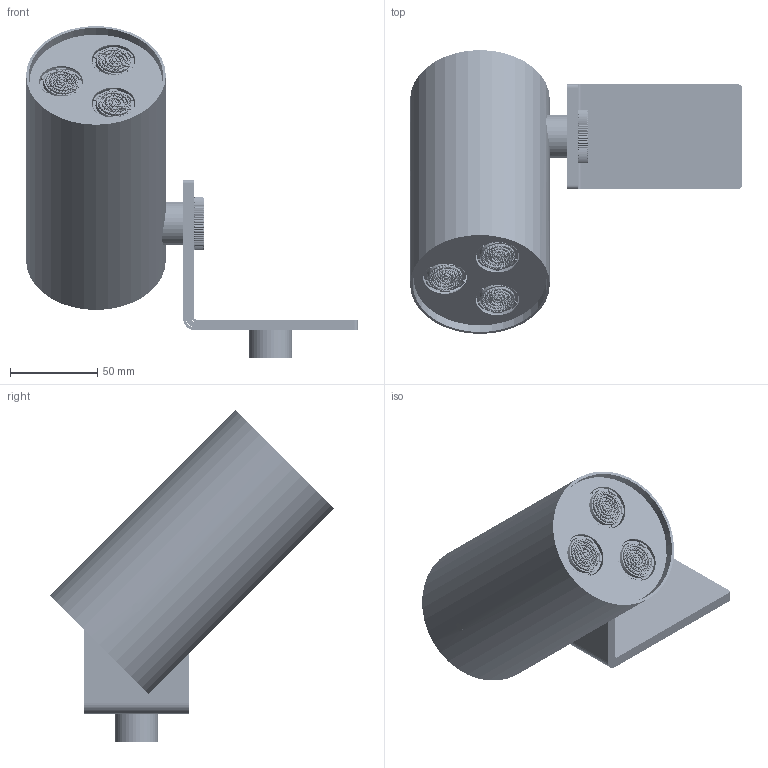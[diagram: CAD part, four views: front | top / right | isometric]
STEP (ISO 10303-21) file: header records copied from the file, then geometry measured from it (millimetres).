
FILE_DESCRIPTION(/* description */ (''),/* implementation_level */ '2;1');
FILE_NAME(/* name */ 'F5914',/* time_stamp */ '2025-04-04T17:42:29+02:00',/* author */ (''),/* organization */ (''),/* preprocessor_version */ 'ST-DEVELOPER v19.2',/* originating_system */ 'Rhino 8.1',/* authorisation */ '');
FILE_SCHEMA (('CONFIG_CONTROL_DESIGN'));
Length unit declared in the file: centimetre
Products named in the file (1): Document
Bounding box: 190 x 162.63 x 190.14 mm (x, y, z)
Volume: 181087.3 mm3; surface area: 176902.6 mm2
Topology: 73 solids, 73 shells, 10504 faces, 27168 edges, 17824 vertices
Faces by surface type: plane 6925, bspline 1961, cylinder 1618
Entity records: 524132 total; most frequent: CARTESIAN_POINT 322842, ORIENTED_EDGE 54326, EDGE_CURVE 27163, B_SPLINE_CURVE_WITH_KNOTS 23594, VERTEX_POINT 17824, DIRECTION 15677, AXIS2_PLACEMENT_3D 12110, EDGE_LOOP 11561
